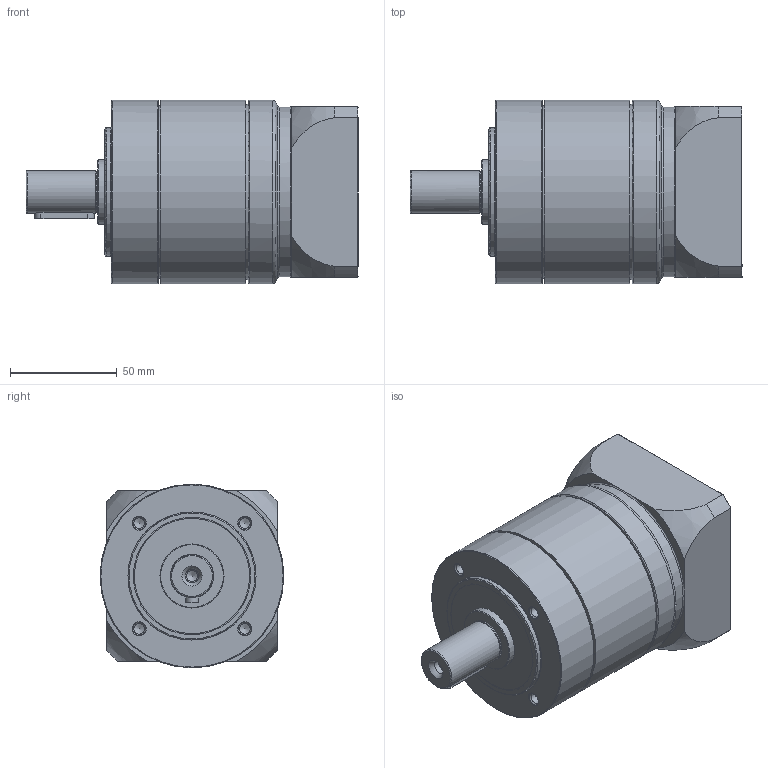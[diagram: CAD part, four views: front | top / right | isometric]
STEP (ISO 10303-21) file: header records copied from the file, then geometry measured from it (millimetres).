
FILE_DESCRIPTION(/* description */ (''),/* implementation_level */ '2;1');
FILE_NAME(/* name */ 'D:\vault\F-JPカタログデータ_byMK\差替え減速機_2023\PG2-080_XXX_750W.stp',/* time_stamp */ '2023-08-29T18:27:40+09:00',/* author */ ('jp6u7013'),/* organization */ (''),/* preprocessor_version */ 'ST-DEVELOPER v18.1',/* originating_system */ 'Autodesk Inventor 2021',/* authorisation */ '');
FILE_SCHEMA (('AUTOMOTIVE_DESIGN { 1 0 10303 214 3 1 1 }'));
Length unit declared in the file: inch
Products named in the file (1): PG2-080_XXX_750W_P1346340503
Bounding box: 155.5 x 86 x 86 mm (x, y, z)
Volume: 705465.2 mm3; surface area: 117553.6 mm2
Topology: 7 solids, 17 shells, 200 faces, 477 edges, 313 vertices
Faces by surface type: plane 65, cylinder 60, cone 33, torus 22, bspline 20
Full cylindrical faces by diameter (mm): 5 x8, 5.1 x1, 6 x9, 6.4 x1, 6.8 x1, 8 x1, 9 x1, 9.2 x1, 10.6 x1, 12.4 x1, 14 x2, 19 x1, 19.6 x1, 20 x1, 23 x1, 30 x1, 35 x1, 41 x1, 55 x1, 56 x1, 59.8 x1, 60 x1, 61 x1, 69 x1, 70 x1, 79.6 x1, 81 x1, 82 x1, 86 x3
Entity records: 12377 total; most frequent: CARTESIAN_POINT 7713, DIRECTION 976, ORIENTED_EDGE 913, EDGE_CURVE 467, AXIS2_PLACEMENT_3D 409, VERTEX_POINT 313, EDGE_LOOP 240, CIRCLE 212
